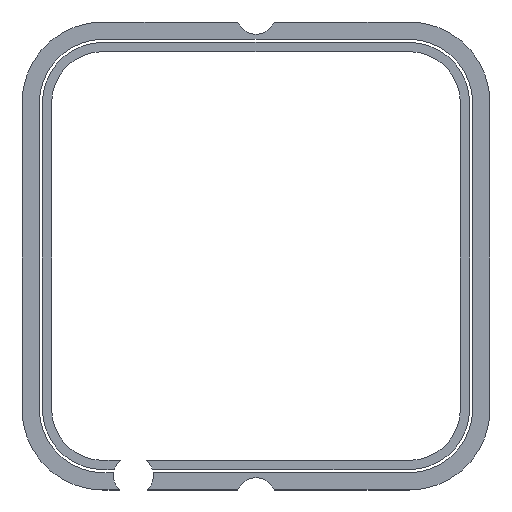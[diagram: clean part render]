
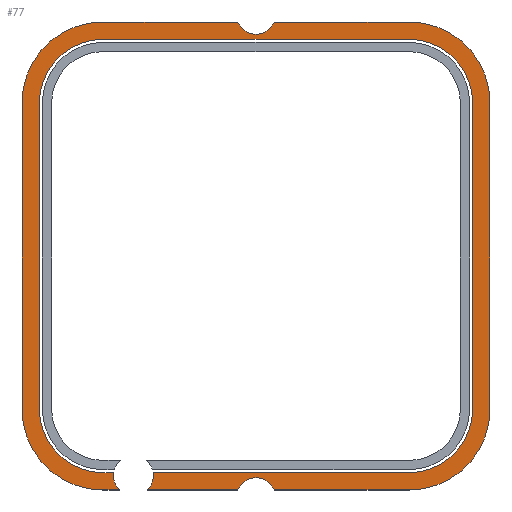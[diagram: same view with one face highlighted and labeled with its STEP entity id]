
A CAD part, top view. The second image highlights one B-rep face of the part: STEP entity #77.
In plain terms, the highlighted planar face has unit normal (0, 0, 1).
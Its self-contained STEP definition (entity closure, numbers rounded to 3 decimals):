
#39 = EDGE_CURVE('',#40,#42,#44,.T.);
#40 = VERTEX_POINT('',#41);
#41 = CARTESIAN_POINT('',(13.1,91.5,18.11));
#42 = VERTEX_POINT('',#43);
#43 = CARTESIAN_POINT('',(21.,83.6,18.11));
#44 = CIRCLE('',#45,7.9);
#45 = AXIS2_PLACEMENT_3D('',#46,#47,#48);
#46 = CARTESIAN_POINT('',(21.,91.5,18.11));
#47 = DIRECTION('',(0.,0.,1.));
#48 = DIRECTION('',(1.,0.,0.));
#77 = ADVANCED_FACE('',(#78),#283,.T.);
#78 = FACE_BOUND('',#79,.T.);
#79 = EDGE_LOOP('',(#80,#88,#89,#97,#106,#114,#123,#131,#140,#148,#157,
    #165,#174,#182,#191,#200,#208,#217,#225,#234,#242,#251,#259,#268,
    #276));
#80 = ORIENTED_EDGE('',*,*,#81,.F.);
#81 = EDGE_CURVE('',#40,#82,#84,.T.);
#82 = VERTEX_POINT('',#83);
#83 = CARTESIAN_POINT('',(13.1,121.5,18.11));
#84 = LINE('',#85,#86);
#85 = CARTESIAN_POINT('',(13.1,91.5,18.11));
#86 = VECTOR('',#87,1.);
#87 = DIRECTION('',(0.,1.,0.));
#88 = ORIENTED_EDGE('',*,*,#39,.T.);
#89 = ORIENTED_EDGE('',*,*,#90,.T.);
#90 = EDGE_CURVE('',#42,#91,#93,.T.);
#91 = VERTEX_POINT('',#92);
#92 = CARTESIAN_POINT('',(22.643,83.6,18.11));
#93 = LINE('',#94,#95);
#94 = CARTESIAN_POINT('',(21.,83.6,18.11));
#95 = VECTOR('',#96,1.);
#96 = DIRECTION('',(1.,0.,0.));
#97 = ORIENTED_EDGE('',*,*,#98,.F.);
#98 = EDGE_CURVE('',#99,#91,#101,.T.);
#99 = VERTEX_POINT('',#100);
#100 = CARTESIAN_POINT('',(22.073,85.3,18.11));
#101 = CIRCLE('',#102,1.95);
#102 = AXIS2_PLACEMENT_3D('',#103,#104,#105);
#103 = CARTESIAN_POINT('',(24.,85.,18.11));
#104 = DIRECTION('',(0.,0.,1.));
#105 = DIRECTION('',(1.,0.,0.));
#106 = ORIENTED_EDGE('',*,*,#107,.T.);
#107 = EDGE_CURVE('',#99,#108,#110,.T.);
#108 = VERTEX_POINT('',#109);
#109 = CARTESIAN_POINT('',(21.,85.3,18.11));
#110 = LINE('',#111,#112);
#111 = CARTESIAN_POINT('',(28.5,85.3,18.11));
#112 = VECTOR('',#113,1.);
#113 = DIRECTION('',(-1.,0.,0.));
#114 = ORIENTED_EDGE('',*,*,#115,.T.);
#115 = EDGE_CURVE('',#108,#116,#118,.T.);
#116 = VERTEX_POINT('',#117);
#117 = CARTESIAN_POINT('',(14.8,91.5,18.11));
#118 = CIRCLE('',#119,6.2);
#119 = AXIS2_PLACEMENT_3D('',#120,#121,#122);
#120 = CARTESIAN_POINT('',(21.,91.5,18.11));
#121 = DIRECTION('',(0.,0.,-1.));
#122 = DIRECTION('',(-1.,0.,0.));
#123 = ORIENTED_EDGE('',*,*,#124,.T.);
#124 = EDGE_CURVE('',#116,#125,#127,.T.);
#125 = VERTEX_POINT('',#126);
#126 = CARTESIAN_POINT('',(14.8,121.5,18.11));
#127 = LINE('',#128,#129);
#128 = CARTESIAN_POINT('',(14.8,114.,18.11));
#129 = VECTOR('',#130,1.);
#130 = DIRECTION('',(0.,1.,0.));
#131 = ORIENTED_EDGE('',*,*,#132,.T.);
#132 = EDGE_CURVE('',#125,#133,#135,.T.);
#133 = VERTEX_POINT('',#134);
#134 = CARTESIAN_POINT('',(21.,127.7,18.11));
#135 = CIRCLE('',#136,6.2);
#136 = AXIS2_PLACEMENT_3D('',#137,#138,#139);
#137 = CARTESIAN_POINT('',(21.,121.5,18.11));
#138 = DIRECTION('',(0.,0.,-1.));
#139 = DIRECTION('',(0.,1.,0.));
#140 = ORIENTED_EDGE('',*,*,#141,.T.);
#141 = EDGE_CURVE('',#133,#142,#144,.T.);
#142 = VERTEX_POINT('',#143);
#143 = CARTESIAN_POINT('',(51.,127.7,18.11));
#144 = LINE('',#145,#146);
#145 = CARTESIAN_POINT('',(43.5,127.7,18.11));
#146 = VECTOR('',#147,1.);
#147 = DIRECTION('',(1.,0.,-0.));
#148 = ORIENTED_EDGE('',*,*,#149,.T.);
#149 = EDGE_CURVE('',#142,#150,#152,.T.);
#150 = VERTEX_POINT('',#151);
#151 = CARTESIAN_POINT('',(57.2,121.5,18.11));
#152 = CIRCLE('',#153,6.2);
#153 = AXIS2_PLACEMENT_3D('',#154,#155,#156);
#154 = CARTESIAN_POINT('',(51.,121.5,18.11));
#155 = DIRECTION('',(0.,0.,-1.));
#156 = DIRECTION('',(1.,0.,0.));
#157 = ORIENTED_EDGE('',*,*,#158,.T.);
#158 = EDGE_CURVE('',#150,#159,#161,.T.);
#159 = VERTEX_POINT('',#160);
#160 = CARTESIAN_POINT('',(57.2,91.5,18.11));
#161 = LINE('',#162,#163);
#162 = CARTESIAN_POINT('',(57.2,99.,18.11));
#163 = VECTOR('',#164,1.);
#164 = DIRECTION('',(0.,-1.,0.));
#165 = ORIENTED_EDGE('',*,*,#166,.T.);
#166 = EDGE_CURVE('',#159,#167,#169,.T.);
#167 = VERTEX_POINT('',#168);
#168 = CARTESIAN_POINT('',(51.,85.3,18.11));
#169 = CIRCLE('',#170,6.2);
#170 = AXIS2_PLACEMENT_3D('',#171,#172,#173);
#171 = CARTESIAN_POINT('',(51.,91.5,18.11));
#172 = DIRECTION('',(0.,-0.,-1.));
#173 = DIRECTION('',(0.,-1.,0.));
#174 = ORIENTED_EDGE('',*,*,#175,.T.);
#175 = EDGE_CURVE('',#167,#176,#178,.T.);
#176 = VERTEX_POINT('',#177);
#177 = CARTESIAN_POINT('',(25.927,85.3,18.11));
#178 = LINE('',#179,#180);
#179 = CARTESIAN_POINT('',(28.5,85.3,18.11));
#180 = VECTOR('',#181,1.);
#181 = DIRECTION('',(-1.,0.,0.));
#182 = ORIENTED_EDGE('',*,*,#183,.F.);
#183 = EDGE_CURVE('',#184,#176,#186,.T.);
#184 = VERTEX_POINT('',#185);
#185 = CARTESIAN_POINT('',(25.95,85.,18.11));
#186 = CIRCLE('',#187,1.95);
#187 = AXIS2_PLACEMENT_3D('',#188,#189,#190);
#188 = CARTESIAN_POINT('',(24.,85.,18.11));
#189 = DIRECTION('',(0.,0.,1.));
#190 = DIRECTION('',(1.,0.,0.));
#191 = ORIENTED_EDGE('',*,*,#192,.F.);
#192 = EDGE_CURVE('',#193,#184,#195,.T.);
#193 = VERTEX_POINT('',#194);
#194 = CARTESIAN_POINT('',(25.357,83.6,18.11));
#195 = CIRCLE('',#196,1.95);
#196 = AXIS2_PLACEMENT_3D('',#197,#198,#199);
#197 = CARTESIAN_POINT('',(24.,85.,18.11));
#198 = DIRECTION('',(0.,0.,1.));
#199 = DIRECTION('',(1.,0.,0.));
#200 = ORIENTED_EDGE('',*,*,#201,.T.);
#201 = EDGE_CURVE('',#193,#202,#204,.T.);
#202 = VERTEX_POINT('',#203);
#203 = CARTESIAN_POINT('',(34.2,83.6,18.11));
#204 = LINE('',#205,#206);
#205 = CARTESIAN_POINT('',(21.,83.6,18.11));
#206 = VECTOR('',#207,1.);
#207 = DIRECTION('',(1.,0.,0.));
#208 = ORIENTED_EDGE('',*,*,#209,.F.);
#209 = EDGE_CURVE('',#210,#202,#212,.T.);
#210 = VERTEX_POINT('',#211);
#211 = CARTESIAN_POINT('',(37.8,83.6,18.11));
#212 = CIRCLE('',#213,1.95);
#213 = AXIS2_PLACEMENT_3D('',#214,#215,#216);
#214 = CARTESIAN_POINT('',(36.,82.85,18.11));
#215 = DIRECTION('',(0.,0.,1.));
#216 = DIRECTION('',(1.,0.,0.));
#217 = ORIENTED_EDGE('',*,*,#218,.T.);
#218 = EDGE_CURVE('',#210,#219,#221,.T.);
#219 = VERTEX_POINT('',#220);
#220 = CARTESIAN_POINT('',(51.,83.6,18.11));
#221 = LINE('',#222,#223);
#222 = CARTESIAN_POINT('',(21.,83.6,18.11));
#223 = VECTOR('',#224,1.);
#224 = DIRECTION('',(1.,0.,0.));
#225 = ORIENTED_EDGE('',*,*,#226,.T.);
#226 = EDGE_CURVE('',#219,#227,#229,.T.);
#227 = VERTEX_POINT('',#228);
#228 = CARTESIAN_POINT('',(58.9,91.5,18.11));
#229 = CIRCLE('',#230,7.9);
#230 = AXIS2_PLACEMENT_3D('',#231,#232,#233);
#231 = CARTESIAN_POINT('',(51.,91.5,18.11));
#232 = DIRECTION('',(0.,0.,1.));
#233 = DIRECTION('',(1.,0.,0.));
#234 = ORIENTED_EDGE('',*,*,#235,.T.);
#235 = EDGE_CURVE('',#227,#236,#238,.T.);
#236 = VERTEX_POINT('',#237);
#237 = CARTESIAN_POINT('',(58.9,121.5,18.11));
#238 = LINE('',#239,#240);
#239 = CARTESIAN_POINT('',(58.9,91.5,18.11));
#240 = VECTOR('',#241,1.);
#241 = DIRECTION('',(0.,1.,0.));
#242 = ORIENTED_EDGE('',*,*,#243,.T.);
#243 = EDGE_CURVE('',#236,#244,#246,.T.);
#244 = VERTEX_POINT('',#245);
#245 = CARTESIAN_POINT('',(51.,129.4,18.11));
#246 = CIRCLE('',#247,7.9);
#247 = AXIS2_PLACEMENT_3D('',#248,#249,#250);
#248 = CARTESIAN_POINT('',(51.,121.5,18.11));
#249 = DIRECTION('',(0.,0.,1.));
#250 = DIRECTION('',(1.,0.,0.));
#251 = ORIENTED_EDGE('',*,*,#252,.F.);
#252 = EDGE_CURVE('',#253,#244,#255,.T.);
#253 = VERTEX_POINT('',#254);
#254 = CARTESIAN_POINT('',(37.8,129.4,18.11));
#255 = LINE('',#256,#257);
#256 = CARTESIAN_POINT('',(21.,129.4,18.11));
#257 = VECTOR('',#258,1.);
#258 = DIRECTION('',(1.,0.,0.));
#259 = ORIENTED_EDGE('',*,*,#260,.F.);
#260 = EDGE_CURVE('',#261,#253,#263,.T.);
#261 = VERTEX_POINT('',#262);
#262 = CARTESIAN_POINT('',(34.2,129.4,18.11));
#263 = CIRCLE('',#264,1.95);
#264 = AXIS2_PLACEMENT_3D('',#265,#266,#267);
#265 = CARTESIAN_POINT('',(36.,130.15,18.11));
#266 = DIRECTION('',(0.,0.,1.));
#267 = DIRECTION('',(1.,0.,0.));
#268 = ORIENTED_EDGE('',*,*,#269,.F.);
#269 = EDGE_CURVE('',#270,#261,#272,.T.);
#270 = VERTEX_POINT('',#271);
#271 = CARTESIAN_POINT('',(21.,129.4,18.11));
#272 = LINE('',#273,#274);
#273 = CARTESIAN_POINT('',(21.,129.4,18.11));
#274 = VECTOR('',#275,1.);
#275 = DIRECTION('',(1.,0.,0.));
#276 = ORIENTED_EDGE('',*,*,#277,.T.);
#277 = EDGE_CURVE('',#270,#82,#278,.T.);
#278 = CIRCLE('',#279,7.9);
#279 = AXIS2_PLACEMENT_3D('',#280,#281,#282);
#280 = CARTESIAN_POINT('',(21.,121.5,18.11));
#281 = DIRECTION('',(0.,0.,1.));
#282 = DIRECTION('',(1.,0.,0.));
#283 = PLANE('',#284);
#284 = AXIS2_PLACEMENT_3D('',#285,#286,#287);
#285 = CARTESIAN_POINT('',(36.,106.5,18.11));
#286 = DIRECTION('',(0.,0.,1.));
#287 = DIRECTION('',(1.,0.,0.));
